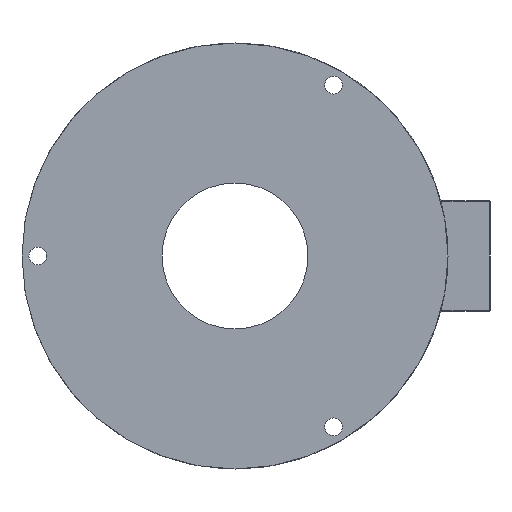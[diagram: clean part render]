
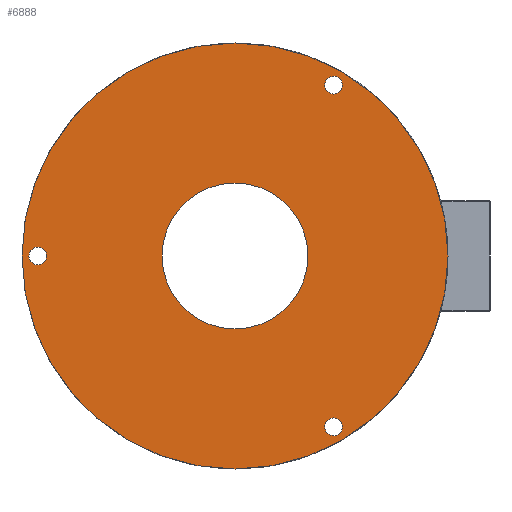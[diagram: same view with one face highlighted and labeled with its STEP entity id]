
A CAD part, left-side view. The second image highlights one B-rep face of the part: STEP entity #6888.
In plain terms, the highlighted planar face has unit normal (-1, 0, 0).
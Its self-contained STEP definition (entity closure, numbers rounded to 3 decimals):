
#168=FACE_BOUND('',#1064,.T.);
#169=FACE_BOUND('',#1065,.T.);
#170=FACE_BOUND('',#1066,.T.);
#171=FACE_BOUND('',#1067,.T.);
#275=PLANE('',#7872);
#630=FACE_OUTER_BOUND('',#1063,.T.);
#1063=EDGE_LOOP('',(#5871,#5872));
#1064=EDGE_LOOP('',(#5873));
#1065=EDGE_LOOP('',(#5874));
#1066=EDGE_LOOP('',(#5875));
#1067=EDGE_LOOP('',(#5876,#5877));
#2394=CIRCLE('',#7873,54.);
#2395=CIRCLE('',#7874,54.);
#2396=CIRCLE('',#7875,2.25);
#2397=CIRCLE('',#7876,2.25);
#2398=CIRCLE('',#7877,2.25);
#2399=CIRCLE('',#7878,18.5);
#2400=CIRCLE('',#7879,18.5);
#3030=VERTEX_POINT('',#12321);
#3031=VERTEX_POINT('',#12322);
#3032=VERTEX_POINT('',#12325);
#3033=VERTEX_POINT('',#12327);
#3034=VERTEX_POINT('',#12329);
#3035=VERTEX_POINT('',#12331);
#3036=VERTEX_POINT('',#12332);
#3998=EDGE_CURVE('',#3030,#3031,#2394,.T.);
#3999=EDGE_CURVE('',#3031,#3030,#2395,.T.);
#4000=EDGE_CURVE('',#3032,#3032,#2396,.T.);
#4001=EDGE_CURVE('',#3033,#3033,#2397,.T.);
#4002=EDGE_CURVE('',#3034,#3034,#2398,.T.);
#4003=EDGE_CURVE('',#3035,#3036,#2399,.T.);
#4004=EDGE_CURVE('',#3036,#3035,#2400,.T.);
#5871=ORIENTED_EDGE('',*,*,#3998,.F.);
#5872=ORIENTED_EDGE('',*,*,#3999,.F.);
#5873=ORIENTED_EDGE('',*,*,#4000,.T.);
#5874=ORIENTED_EDGE('',*,*,#4001,.T.);
#5875=ORIENTED_EDGE('',*,*,#4002,.T.);
#5876=ORIENTED_EDGE('',*,*,#4003,.T.);
#5877=ORIENTED_EDGE('',*,*,#4004,.T.);
#6888=ADVANCED_FACE('',(#630,#168,#169,#170,#171),#275,.T.);
#7872=AXIS2_PLACEMENT_3D('',#12320,#10145,#10146);
#7873=AXIS2_PLACEMENT_3D('',#12323,#10147,#10148);
#7874=AXIS2_PLACEMENT_3D('',#12324,#10149,#10150);
#7875=AXIS2_PLACEMENT_3D('',#12326,#10151,#10152);
#7876=AXIS2_PLACEMENT_3D('',#12328,#10153,#10154);
#7877=AXIS2_PLACEMENT_3D('',#12330,#10155,#10156);
#7878=AXIS2_PLACEMENT_3D('',#12333,#10157,#10158);
#7879=AXIS2_PLACEMENT_3D('',#12334,#10159,#10160);
#10145=DIRECTION('center_axis',(-1.,0.,0.));
#10146=DIRECTION('ref_axis',(0.,0.,1.));
#10147=DIRECTION('center_axis',(1.,0.,0.));
#10148=DIRECTION('ref_axis',(0.,0.,-1.));
#10149=DIRECTION('center_axis',(1.,0.,0.));
#10150=DIRECTION('ref_axis',(0.,0.,-1.));
#10151=DIRECTION('center_axis',(1.,0.,0.));
#10152=DIRECTION('ref_axis',(0.,0.,-1.));
#10153=DIRECTION('center_axis',(1.,0.,0.));
#10154=DIRECTION('ref_axis',(0.,0.,-1.));
#10155=DIRECTION('center_axis',(1.,0.,0.));
#10156=DIRECTION('ref_axis',(0.,0.,-1.));
#10157=DIRECTION('center_axis',(1.,0.,0.));
#10158=DIRECTION('ref_axis',(0.,0.,-1.));
#10159=DIRECTION('center_axis',(1.,0.,0.));
#10160=DIRECTION('ref_axis',(0.,0.,-1.));
#12320=CARTESIAN_POINT('Origin',(-13.,54.,0.));
#12321=CARTESIAN_POINT('',(-13.,54.,0.));
#12322=CARTESIAN_POINT('',(-13.,-54.,0.));
#12323=CARTESIAN_POINT('Origin',(-13.,0.,0.));
#12324=CARTESIAN_POINT('Origin',(-13.,0.,0.));
#12325=CARTESIAN_POINT('',(-13.,-25.,45.551));
#12326=CARTESIAN_POINT('Origin',(-13.,-25.,43.301));
#12327=CARTESIAN_POINT('',(-13.,50.,2.25));
#12328=CARTESIAN_POINT('Origin',(-13.,50.,0.));
#12329=CARTESIAN_POINT('',(-13.,-25.,-41.051));
#12330=CARTESIAN_POINT('Origin',(-13.,-25.,-43.301));
#12331=CARTESIAN_POINT('',(-13.,18.5,0.));
#12332=CARTESIAN_POINT('',(-13.,-18.5,0.));
#12333=CARTESIAN_POINT('Origin',(-13.,0.,0.));
#12334=CARTESIAN_POINT('Origin',(-13.,0.,0.));
